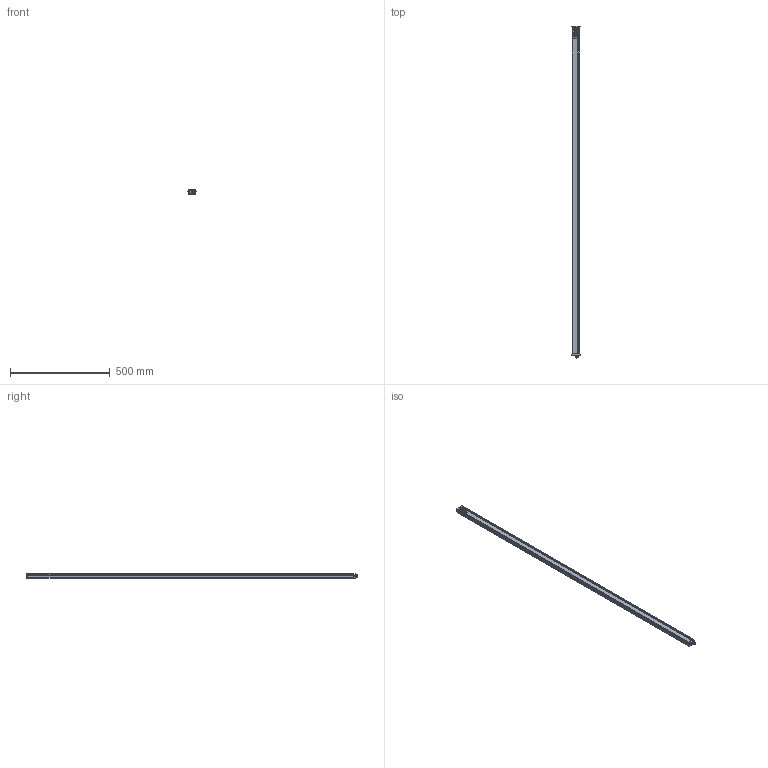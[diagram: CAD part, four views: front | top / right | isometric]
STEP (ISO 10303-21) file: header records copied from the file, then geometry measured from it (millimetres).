
FILE_DESCRIPTION(/* description */ (''),/* implementation_level */ '2;1');
FILE_NAME(/* name */ 'C:\Users\andre\SynologyDrive\Optoscan\Libreria Componenti\00 - Barriere\Polaris sorgente\Barriera Polaris RX\Polaris_1630_RX.stp',/* time_stamp */ '2021-06-04T11:55:55+02:00',/* author */ ('andre'),/* organization */ (''),/* preprocessor_version */ 'ST-DEVELOPER v18',/* originating_system */ 'Autodesk Inventor 2020',/* authorisation */ '');
FILE_SCHEMA (('AUTOMOTIVE_DESIGN { 1 0 10303 214 3 1 1 }'));
Length unit declared in the file: millimetre
Products named in the file (1): Polaris_1630_RX
Bounding box: 40.5 x 1665.3 x 20.75 mm (x, y, z)
Volume: 328970.4 mm3; surface area: 435318.4 mm2
Topology: 1 solids, 1 shells, 700 faces, 1926 edges, 1237 vertices
Faces by surface type: plane 319, cylinder 199, bspline 94, torus 70, sphere 10, cone 8
Full cylindrical faces by diameter (mm): 1 x8, 2.459 x4, 2.5 x4, 3 x4, 3.5 x4, 5.5 x4, 8 x1, 10.5 x2, 11.75 x9, 15.7 x1, 17.5 x1
Entity records: 28472 total; most frequent: CARTESIAN_POINT 10246, ORIENTED_EDGE 3826, DIRECTION 3447, EDGE_CURVE 1913, VERTEX_POINT 1237, AXIS2_PLACEMENT_3D 1211, LINE 1025, VECTOR 1025
